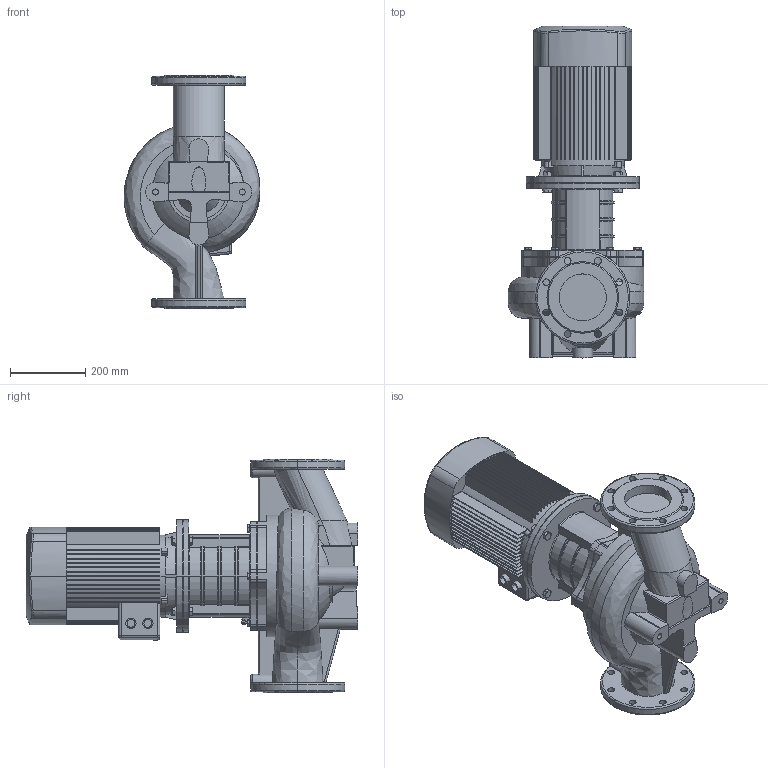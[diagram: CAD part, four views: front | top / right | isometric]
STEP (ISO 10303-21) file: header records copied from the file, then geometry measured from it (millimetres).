
FILE_DESCRIPTION (( 'STEP AP203' ), '1' );
FILE_NAME ('TD125-14G／4.STEP', '2026-09-07T09:23:11', ( '' ), ( '' ), 'SwSTEP 2.0', 'SolidWorks 2020', '' );
FILE_SCHEMA (( 'CONFIG_CONTROL_DESIGN' ));
Products named in the file (1): TD125-14Gㄞ4
Bounding box: 360.72 x 881 x 620 mm (x, y, z)
Volume: 50593149.9 mm3; surface area: 2048345.4 mm2
Topology: 1 solids, 10 shells, 1316 faces, 3462 edges, 2175 vertices
Faces by surface type: plane 646, cylinder 329, cone 149, torus 115, bspline 43, sphere 34
Entity records: 54175 total; most frequent: CARTESIAN_POINT 21910, ORIENTED_EDGE 6868, DIRECTION 6698, EDGE_CURVE 3434, AXIS2_PLACEMENT_3D 2520, VERTEX_POINT 2175, LINE 1658, VECTOR 1658
